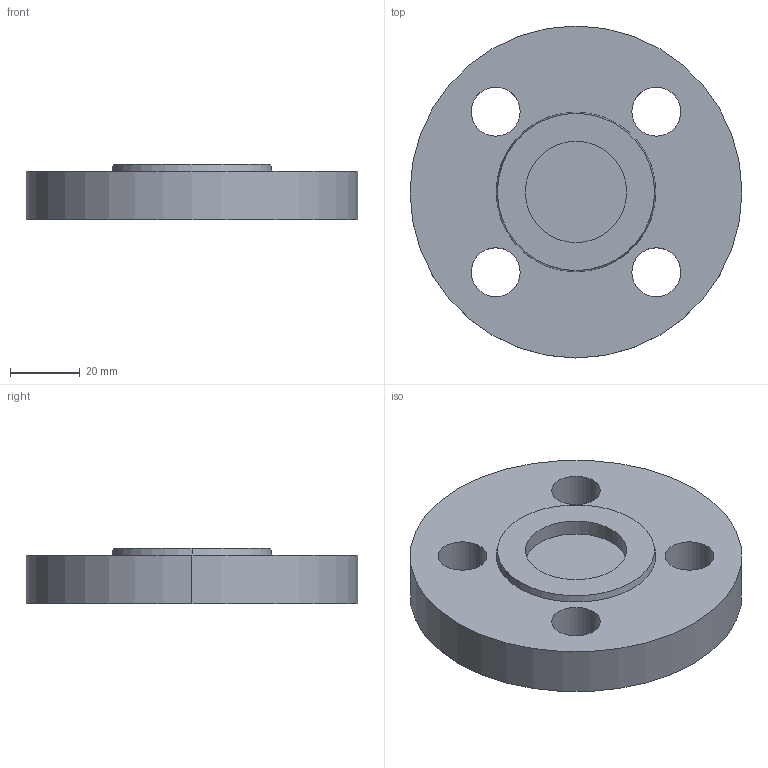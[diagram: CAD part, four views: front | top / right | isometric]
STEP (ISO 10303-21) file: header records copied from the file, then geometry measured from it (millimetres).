
FILE_DESCRIPTION (( 'STEP AP214' ), '1' );
FILE_NAME ('PN40 DN15 Type 05 - Type G Face.STEP', '2018-12-29T15:05:24', ( '' ), ( '' ), 'SwSTEP 2.0', 'SolidWorks 2019', '' );
FILE_SCHEMA (( 'AUTOMOTIVE_DESIGN' ));
Length unit declared in the file: millimetre
Products named in the file (1): PN40 DN15 Type 05 - Type G Face
Bounding box: 95 x 95 x 16 mm (x, y, z)
Volume: 90873.2 mm3; surface area: 20235.3 mm2
Topology: 1 solids, 1 shells, 18 faces, 42 edges, 28 vertices
Faces by surface type: cylinder 12, plane 4, cone 2
Entity records: 584 total; most frequent: DIRECTION 108, CARTESIAN_POINT 89, ORIENTED_EDGE 84, AXIS2_PLACEMENT_3D 47, EDGE_CURVE 42, CIRCLE 28, VERTEX_POINT 28, EDGE_LOOP 28
